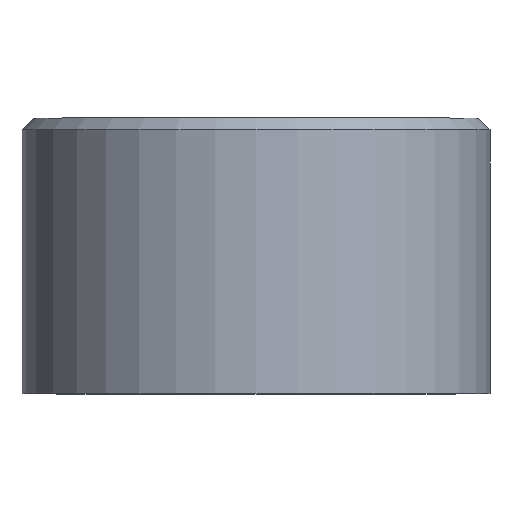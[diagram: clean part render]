
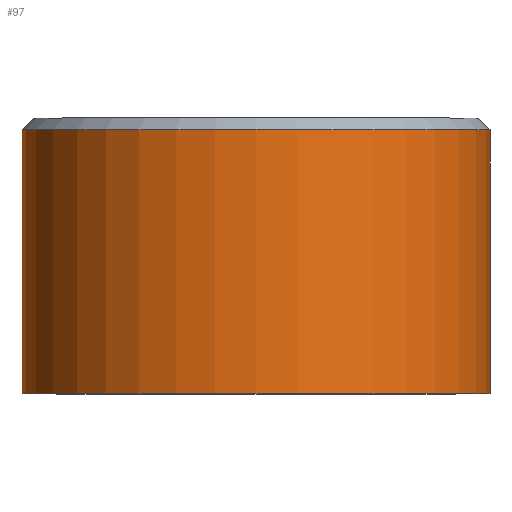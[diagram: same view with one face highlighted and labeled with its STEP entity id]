
A CAD part, top view. The second image highlights one B-rep face of the part: STEP entity #97.
In plain terms, the highlighted cylindrical face has radius 45 mm (diameter 90 mm), a full revolution.
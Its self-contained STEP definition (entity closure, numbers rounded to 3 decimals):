
#15=CYLINDRICAL_SURFACE('',#110,45.);
#23=FACE_BOUND('',#42,.T.);
#31=FACE_OUTER_BOUND('',#41,.T.);
#41=EDGE_LOOP('',(#81));
#42=EDGE_LOOP('',(#82));
#53=CIRCLE('',#106,45.);
#56=CIRCLE('',#111,45.);
#61=VERTEX_POINT('',#157);
#64=VERTEX_POINT('',#165);
#69=EDGE_CURVE('',#61,#61,#53,.T.);
#72=EDGE_CURVE('',#64,#64,#56,.T.);
#81=ORIENTED_EDGE('',*,*,#72,.T.);
#82=ORIENTED_EDGE('',*,*,#69,.F.);
#97=ADVANCED_FACE('',(#31,#23),#15,.T.);
#106=AXIS2_PLACEMENT_3D('',#158,#125,#126);
#110=AXIS2_PLACEMENT_3D('',#164,#133,#134);
#111=AXIS2_PLACEMENT_3D('',#166,#135,#136);
#125=DIRECTION('center_axis',(0.,1.,0.));
#126=DIRECTION('ref_axis',(1.,0.,0.));
#133=DIRECTION('center_axis',(0.,1.,0.));
#134=DIRECTION('ref_axis',(-1.,0.,0.));
#135=DIRECTION('center_axis',(0.,1.,0.));
#136=DIRECTION('ref_axis',(1.,0.,0.));
#157=CARTESIAN_POINT('',(-45.,50.75,0.));
#158=CARTESIAN_POINT('Origin',(0.,50.75,0.));
#164=CARTESIAN_POINT('Origin',(0.,26.5,0.));
#165=CARTESIAN_POINT('',(-45.,0.,0.));
#166=CARTESIAN_POINT('Origin',(0.,0.,0.));
